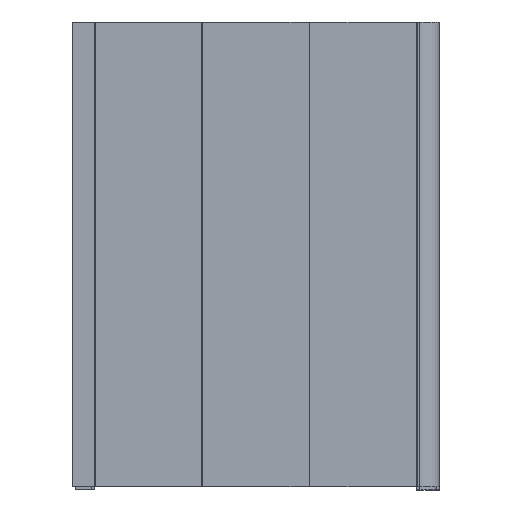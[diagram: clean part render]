
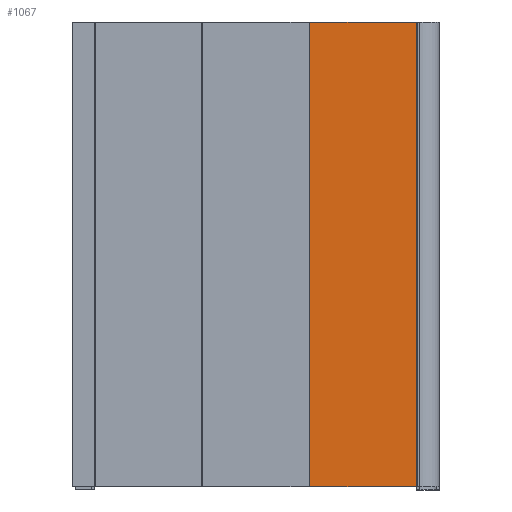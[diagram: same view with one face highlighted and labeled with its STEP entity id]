
A CAD part, left-side view. The second image highlights one B-rep face of the part: STEP entity #1067.
In plain terms, the highlighted planar face has unit normal (-1, 0, 0) as drawn and (1, 0, 0) by its records, which use the part's own axes.
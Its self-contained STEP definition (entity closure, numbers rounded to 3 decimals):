
#1067=ADVANCED_FACE('',(#1612),#8218,.T.);
#1612=FACE_OUTER_BOUND('',#2165,.T.);
#2165=EDGE_LOOP('',(#4027,#4028,#4029,#4030));
#4027=ORIENTED_EDGE('',*,*,#5592,.T.);
#4028=ORIENTED_EDGE('',*,*,#5593,.T.);
#4029=ORIENTED_EDGE('',*,*,#5594,.F.);
#4030=ORIENTED_EDGE('',*,*,#5590,.F.);
#5590=EDGE_CURVE('',#7637,#7638,#6692,.T.);
#5592=EDGE_CURVE('',#7637,#7639,#6694,.T.);
#5593=EDGE_CURVE('',#7639,#7640,#6695,.T.);
#5594=EDGE_CURVE('',#7638,#7640,#6696,.T.);
#6692=B_SPLINE_CURVE_WITH_KNOTS('',1,(#14444,#14445),.UNSPECIFIED.,.F.,
 .F.,(2,2),(0.,2600.),.UNSPECIFIED.);
#6694=B_SPLINE_CURVE_WITH_KNOTS('',1,(#14448,#14449),.UNSPECIFIED.,.F.,
 .F.,(2,2),(608.,1204.),.UNSPECIFIED.);
#6695=B_SPLINE_CURVE_WITH_KNOTS('',1,(#14450,#14451),.UNSPECIFIED.,.F.,
 .F.,(2,2),(0.,2600.),.UNSPECIFIED.);
#6696=B_SPLINE_CURVE_WITH_KNOTS('',1,(#14452,#14453),.UNSPECIFIED.,.F.,
 .F.,(2,2),(608.,1204.),.UNSPECIFIED.);
#7637=VERTEX_POINT('',#14430);
#7638=VERTEX_POINT('',#14431);
#7639=VERTEX_POINT('',#14432);
#7640=VERTEX_POINT('',#14433);
#8218=PLANE('',#10390);
#10390=AXIS2_PLACEMENT_3D('',#14422,#11186,$);
#11186=DIRECTION('',(1.,0.,0.));
#14422=CARTESIAN_POINT('',(-240.446,129.195,18.));
#14430=CARTESIAN_POINT('',(-240.446,129.195,18.));
#14431=CARTESIAN_POINT('',(-240.446,129.195,2618.));
#14432=CARTESIAN_POINT('',(-240.446,725.195,18.));
#14433=CARTESIAN_POINT('',(-240.446,725.195,2618.));
#14444=CARTESIAN_POINT('',(-240.446,129.195,18.));
#14445=CARTESIAN_POINT('',(-240.446,129.195,2618.));
#14448=CARTESIAN_POINT('',(-240.446,129.195,18.));
#14449=CARTESIAN_POINT('',(-240.446,725.195,18.));
#14450=CARTESIAN_POINT('',(-240.446,725.195,18.));
#14451=CARTESIAN_POINT('',(-240.446,725.195,2618.));
#14452=CARTESIAN_POINT('',(-240.446,129.195,2618.));
#14453=CARTESIAN_POINT('',(-240.446,725.195,2618.));
